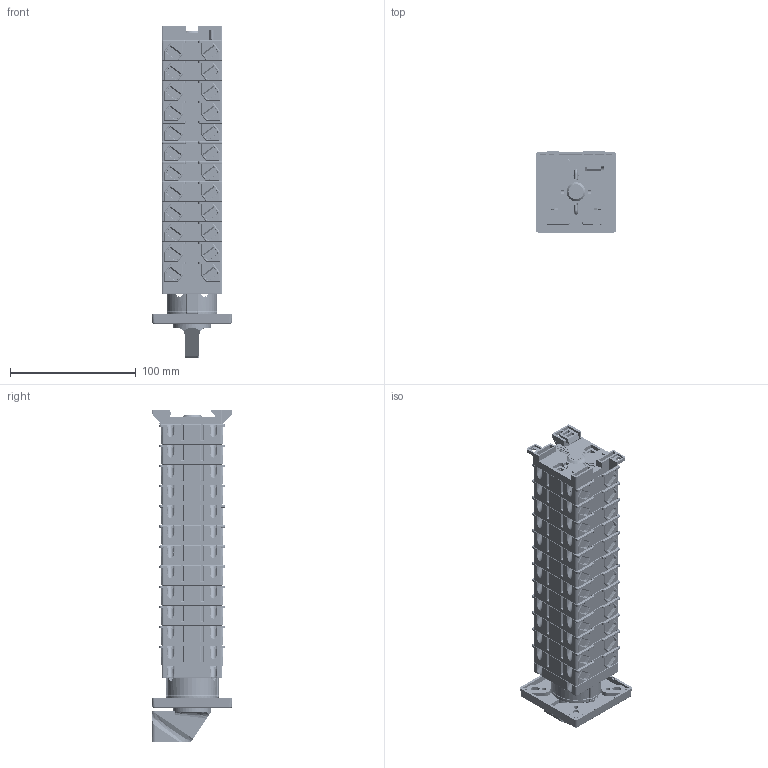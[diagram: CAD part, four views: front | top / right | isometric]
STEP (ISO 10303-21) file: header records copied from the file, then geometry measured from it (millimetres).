
FILE_DESCRIPTION (( 'STEP AP214' ), '1' );
FILE_NAME ('Ïåðåêëþ÷àòåëü 4G16,25-XXXX-OU-R112,R114,S24 12ê.STEP', '2022-11-28T11:45:25', ( '' ), ( '' ), 'SwSTEP 2.0', 'SolidWorks 2018', '' );
FILE_SCHEMA (( 'AUTOMOTIVE_DESIGN' ));
Length unit declared in the file: millimetre
Products named in the file (1): Ïåðåêëþ÷àòåëü 4G16,25-XXXX-OU-R112,R114,S24 12ê
Bounding box: 64 x 64.21 x 263.8 mm (x, y, z)
Volume: 503673.7 mm3; surface area: 205838.1 mm2
Topology: 31 solids, 127 shells, 10701 faces, 28232 edges, 17948 vertices
Faces by surface type: plane 6333, cylinder 3160, torus 550, cone 453, bspline 147, sphere 58
Entity records: 457198 total; most frequent: CARTESIAN_POINT 77196, ORIENTED_EDGE 56358, DIRECTION 52916, EDGE_CURVE 28179, LINE 19986, VECTOR 19986, VERTEX_POINT 17932, AXIS2_PLACEMENT_3D 16465
